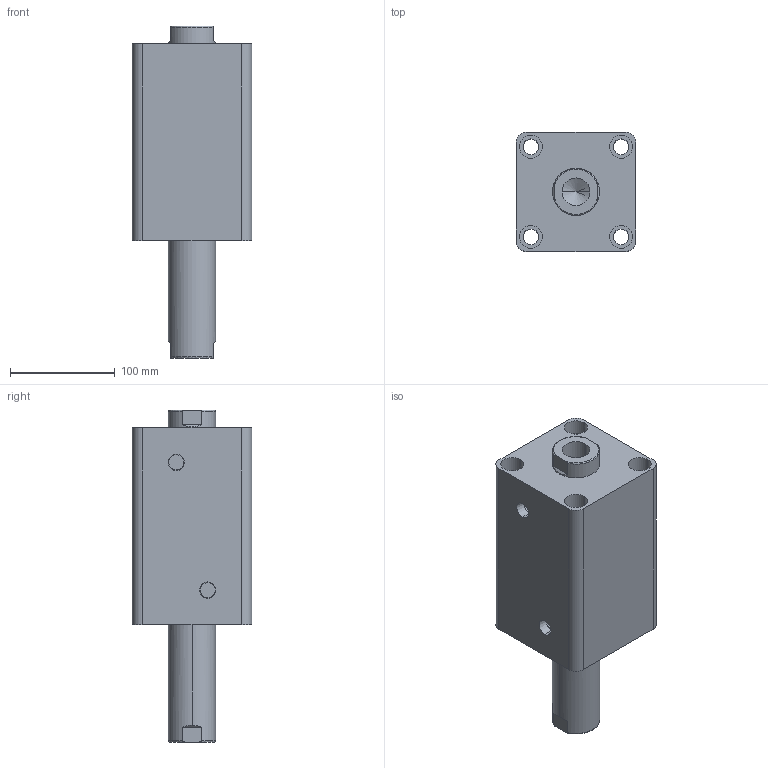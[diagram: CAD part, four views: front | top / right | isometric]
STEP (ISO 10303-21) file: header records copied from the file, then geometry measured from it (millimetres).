
FILE_DESCRIPTION (( 'STEP AP203' ), '1' );
FILE_NAME ('HTB-SW80-95N.STEP', '2019-10-07T10:27:26', ( '微软用户' ), ( '微软中国' ), 'SwSTEP 2.0', 'SolidWorks 2012', '' );
FILE_SCHEMA (( 'CONFIG_CONTROL_DESIGN' ));
Length unit declared in the file: millimetre
Products named in the file (3): HTB-SW80-95N; HTB-SW80-95N活塞杆; HTB-SW80-95掛极
Assembly tree (2 placements, depth 2):
  HTB-SW80-95N
    HTB-SW80-95掛极
    HTB-SW80-95N活塞杆
Bounding box: 114 x 114 x 317 mm (x, y, z)
Volume: 2112478.9 mm3; surface area: 252657.2 mm2
Topology: 2 solids, 2 shells, 100 faces, 228 edges, 146 vertices
Faces by surface type: cylinder 48, plane 32, torus 12, cone 8
Entity records: 3237 total; most frequent: CARTESIAN_POINT 595, DIRECTION 542, ORIENTED_EDGE 448, AXIS2_PLACEMENT_3D 229, EDGE_CURVE 224, VERTEX_POINT 146, EDGE_LOOP 128, CIRCLE 124
